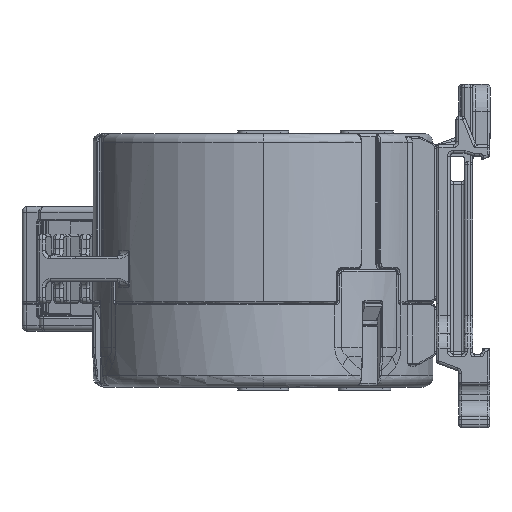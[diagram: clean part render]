
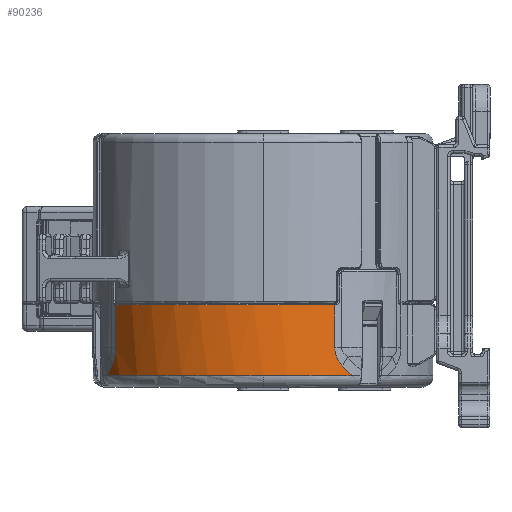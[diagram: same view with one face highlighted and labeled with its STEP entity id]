
A CAD part, left-side view. The second image highlights one B-rep face of the part: STEP entity #90236.
In plain terms, the highlighted cylindrical face has radius 30 mm (diameter 60 mm), a partial arc.
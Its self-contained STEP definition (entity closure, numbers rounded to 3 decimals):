
#4459 = CARTESIAN_POINT ( 'NONE',  ( -15.041, 25.957, -37.708 ) ) ;
#4923 = CARTESIAN_POINT ( 'NONE',  ( -13.425, 26.83, -41.273 ) ) ;
#5142 = VECTOR ( 'NONE', #33505, 1000. ) ;
#8688 = FACE_OUTER_BOUND ( 'NONE', #163260, .T. ) ;
#9200 = CARTESIAN_POINT ( 'NONE',  ( -27.209, -12.636, -38.016 ) ) ;
#10316 = ORIENTED_EDGE ( 'NONE', *, *, #129539, .T. ) ;
#11353 = VERTEX_POINT ( 'NONE', #193972 ) ;
#14459 = CARTESIAN_POINT ( 'NONE',  ( 0., 0., -42.7 ) ) ;
#18117 = CARTESIAN_POINT ( 'NONE',  ( 0., 0., -42.7 ) ) ;
#18588 = VERTEX_POINT ( 'NONE', #209119 ) ;
#18597 = VERTEX_POINT ( 'NONE', #199837 ) ;
#24101 = CARTESIAN_POINT ( 'NONE',  ( -26.647, -13.783, -40.734 ) ) ;
#33505 = DIRECTION ( 'NONE',  ( 0., 0., 1. ) ) ;
#37795 = CARTESIAN_POINT ( 'NONE',  ( -14.886, 26.046, -38.916 ) ) ;
#43420 = CARTESIAN_POINT ( 'NONE',  ( -27.133, -12.798, -38.918 ) ) ;
#48183 = ORIENTED_EDGE ( 'NONE', *, *, #223548, .T. ) ;
#48271 = CARTESIAN_POINT ( 'NONE',  ( -25.87, -15.21, -42.201 ) ) ;
#54580 = ORIENTED_EDGE ( 'NONE', *, *, #121372, .T. ) ;
#57166 = CARTESIAN_POINT ( 'NONE',  ( -15.041, 25.957, -37.708 ) ) ;
#58091 = VERTEX_POINT ( 'NONE', #187696 ) ;
#58092 = CARTESIAN_POINT ( 'NONE',  ( -26.544, -13.979, -40.948 ) ) ;
#59603 = CARTESIAN_POINT ( 'NONE',  ( -27.209, -12.636, -30.15 ) ) ;
#60914 = B_SPLINE_CURVE_WITH_KNOTS ( 'NONE', 3,
 ( #107802, #4923, #106642, #71201, #142164, #177426 ),
 .UNSPECIFIED., .F., .F.,
 ( 4, 2, 4 ),
 ( 0.013, 0.015, 0.016 ),
 .UNSPECIFIED. ) ;
#62352 = CARTESIAN_POINT ( 'NONE',  ( 0., 0., -44.7 ) ) ;
#62572 = VECTOR ( 'NONE', #107980, 1000. ) ;
#63196 = CARTESIAN_POINT ( 'NONE',  ( -25.447, -15.888, -42.7 ) ) ;
#66560 = CARTESIAN_POINT ( 'NONE',  ( -26.544, -13.979, -40.948 ) ) ;
#71201 = CARTESIAN_POINT ( 'NONE',  ( -12.449, 27.297, -42.174 ) ) ;
#72215 = B_SPLINE_CURVE_WITH_KNOTS ( 'NONE', 3,
 ( #129271, #24101, #183913, #167979, #113235, #185042, #43420, #216984, #9200, #79949 ),
 .UNSPECIFIED., .F., .F.,
 ( 4, 2, 2, 2, 4 ),
 ( 0., 0.001, 0.002, 0.003, 0.004 ),
 .UNSPECIFIED. ) ;
#72835 = CIRCLE ( 'NONE', #200531, 30. ) ;
#79949 = CARTESIAN_POINT ( 'NONE',  ( -27.209, -12.636, -37.708 ) ) ;
#82521 = VERTEX_POINT ( 'NONE', #120712 ) ;
#83331 = CARTESIAN_POINT ( 'NONE',  ( 0., 0., -30.15 ) ) ;
#84081 = DIRECTION ( 'NONE',  ( 1., 0., 0. ) ) ;
#84330 = ORIENTED_EDGE ( 'NONE', *, *, #157943, .T. ) ;
#85563 = ORIENTED_EDGE ( 'NONE', *, *, #127811, .T. ) ;
#86390 = EDGE_CURVE ( 'NONE', #82521, #185055, #137547, .T. ) ;
#87755 = DIRECTION ( 'NONE',  ( 1., 0., 0. ) ) ;
#88201 = AXIS2_PLACEMENT_3D ( 'NONE', #14459, #121866, #84081 ) ;
#88330 = VERTEX_POINT ( 'NONE', #58092 ) ;
#90236 = ADVANCED_FACE ( 'NONE', ( #8688 ), #116092, .T. ) ;
#91411 = CARTESIAN_POINT ( 'NONE',  ( -14.564, 26.228, -39.754 ) ) ;
#96644 = DIRECTION ( 'NONE',  ( 1., 0., 0. ) ) ;
#99138 = ORIENTED_EDGE ( 'NONE', *, *, #86390, .T. ) ;
#106325 = CARTESIAN_POINT ( 'NONE',  ( -14.423, 26.306, -40.016 ) ) ;
#106642 = CARTESIAN_POINT ( 'NONE',  ( -13.112, 26.986, -41.585 ) ) ;
#107475 = CARTESIAN_POINT ( 'NONE',  ( -14.101, 26.48, -40.507 ) ) ;
#107802 = CARTESIAN_POINT ( 'NONE',  ( -13.726, 26.676, -40.948 ) ) ;
#107980 = DIRECTION ( 'NONE',  ( 0., 0., -1. ) ) ;
#108900 = VERTEX_POINT ( 'NONE', #4459 ) ;
#113235 = CARTESIAN_POINT ( 'NONE',  ( -26.973, -13.133, -39.758 ) ) ;
#114988 = AXIS2_PLACEMENT_3D ( 'NONE', #18117, #192798, #87755 ) ;
#116092 = CYLINDRICAL_SURFACE ( 'NONE', #162835, 30. ) ;
#120712 = CARTESIAN_POINT ( 'NONE',  ( -27.209, -12.636, -37.708 ) ) ;
#121372 = EDGE_CURVE ( 'NONE', #18588, #11353, #168475, .T. ) ;
#121866 = DIRECTION ( 'NONE',  ( 0., 0., 1. ) ) ;
#126859 = ORIENTED_EDGE ( 'NONE', *, *, #209703, .T. ) ;
#126968 = CARTESIAN_POINT ( 'NONE',  ( -15.009, 25.976, -38.321 ) ) ;
#127811 = EDGE_CURVE ( 'NONE', #88330, #82521, #72215, .T. ) ;
#129271 = CARTESIAN_POINT ( 'NONE',  ( -26.544, -13.979, -40.948 ) ) ;
#129539 = EDGE_CURVE ( 'NONE', #58091, #18588, #60914, .T. ) ;
#133039 = CARTESIAN_POINT ( 'NONE',  ( -26.229, -14.577, -41.599 ) ) ;
#137547 = LINE ( 'NONE', #224194, #5142 ) ;
#142164 = CARTESIAN_POINT ( 'NONE',  ( -12.1, 27.454, -42.45 ) ) ;
#144760 = B_SPLINE_CURVE_WITH_KNOTS ( 'NONE', 3,
 ( #63196, #48271, #133039, #66560 ),
 .UNSPECIFIED., .F., .F.,
 ( 4, 4 ),
 ( 0., 0.003 ),
 .UNSPECIFIED. ) ;
#145724 = CARTESIAN_POINT ( 'NONE',  ( -15.041, 25.957, -30.15 ) ) ;
#147943 = ORIENTED_EDGE ( 'NONE', *, *, #200990, .T. ) ;
#148132 = DIRECTION ( 'NONE',  ( 0., 0., 1. ) ) ;
#152605 = LINE ( 'NONE', #177584, #62572 ) ;
#153084 = DIRECTION ( 'NONE',  ( 0., 0., -1. ) ) ;
#157943 = EDGE_CURVE ( 'NONE', #177823, #108900, #152605, .T. ) ;
#158863 = CARTESIAN_POINT ( 'NONE',  ( -15.041, 25.957, -38.015 ) ) ;
#161114 = CARTESIAN_POINT ( 'NONE',  ( -13.922, 26.575, -40.735 ) ) ;
#162835 = AXIS2_PLACEMENT_3D ( 'NONE', #62352, #148132, #96644 ) ;
#163260 = EDGE_LOOP ( 'NONE', ( #99138, #126859, #84330, #165755, #10316, #54580, #48183, #147943, #85563 ) ) ;
#165755 = ORIENTED_EDGE ( 'NONE', *, *, #211588, .T. ) ;
#167979 = CARTESIAN_POINT ( 'NONE',  ( -26.902, -13.279, -40.02 ) ) ;
#168475 = CIRCLE ( 'NONE', #88201, 30. ) ;
#177106 = CARTESIAN_POINT ( 'NONE',  ( -13.726, 26.676, -40.948 ) ) ;
#177426 = CARTESIAN_POINT ( 'NONE',  ( -11.732, 27.611, -42.7 ) ) ;
#177584 = CARTESIAN_POINT ( 'NONE',  ( -15.041, 25.957, -44.7 ) ) ;
#177823 = VERTEX_POINT ( 'NONE', #145724 ) ;
#183913 = CARTESIAN_POINT ( 'NONE',  ( -26.739, -13.603, -40.507 ) ) ;
#185042 = CARTESIAN_POINT ( 'NONE',  ( -27.089, -12.893, -39.206 ) ) ;
#185055 = VERTEX_POINT ( 'NONE', #59603 ) ;
#187696 = CARTESIAN_POINT ( 'NONE',  ( -13.726, 26.676, -40.948 ) ) ;
#192798 = DIRECTION ( 'NONE',  ( 0., 0., 1. ) ) ;
#193060 = CARTESIAN_POINT ( 'NONE',  ( -14.794, 26.099, -39.206 ) ) ;
#193972 = CARTESIAN_POINT ( 'NONE',  ( -30., 0., -42.7 ) ) ;
#199837 = CARTESIAN_POINT ( 'NONE',  ( -25.447, -15.888, -42.7 ) ) ;
#200531 = AXIS2_PLACEMENT_3D ( 'NONE', #83331, #153084, #222611 ) ;
#200990 = EDGE_CURVE ( 'NONE', #18597, #88330, #144760, .T. ) ;
#201050 = B_SPLINE_CURVE_WITH_KNOTS ( 'NONE', 3,
 ( #57166, #158863, #126968, #37795, #193060, #91411, #106325, #107475, #161114, #177106 ),
 .UNSPECIFIED., .F., .F.,
 ( 4, 2, 2, 2, 4 ),
 ( 0., 0.001, 0.002, 0.003, 0.004 ),
 .UNSPECIFIED. ) ;
#209119 = CARTESIAN_POINT ( 'NONE',  ( -11.732, 27.611, -42.7 ) ) ;
#209703 = EDGE_CURVE ( 'NONE', #185055, #177823, #72835, .T. ) ;
#211588 = EDGE_CURVE ( 'NONE', #108900, #58091, #201050, .T. ) ;
#213364 = CIRCLE ( 'NONE', #114988, 30. ) ;
#216984 = CARTESIAN_POINT ( 'NONE',  ( -27.194, -12.669, -38.319 ) ) ;
#222611 = DIRECTION ( 'NONE',  ( 1., 0., 0. ) ) ;
#223548 = EDGE_CURVE ( 'NONE', #11353, #18597, #213364, .T. ) ;
#224194 = CARTESIAN_POINT ( 'NONE',  ( -27.209, -12.636, -44.7 ) ) ;
